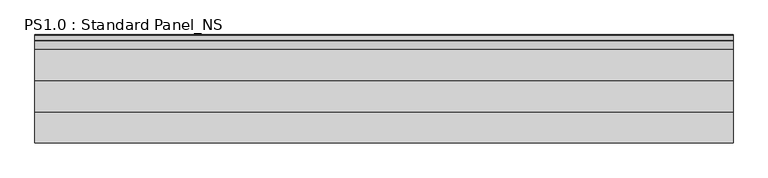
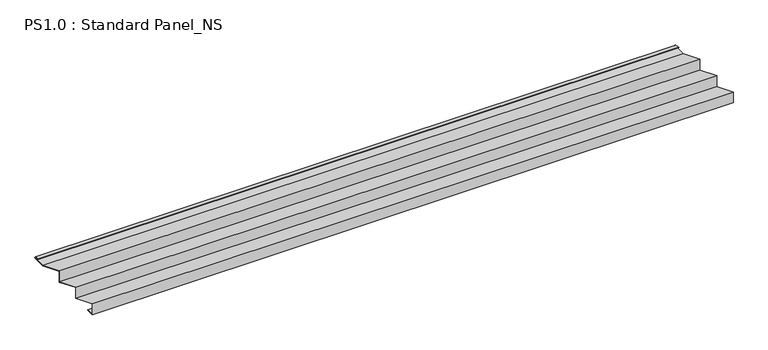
"""IFC4 building model written with IfcOpenShell, lengths in millimetres: proxy geometry, PS1.0 : Standard Panel_NS."""

import ifcopenshell
import ifcopenshell.guid

model = None  # the IFC model being written
_history = None  # IfcOwnerHistory: only IFC2X3 demands one
_inside = {}  # id of a spatial element -> (the spatial element, [elements in it])
_under = {}  # id of a project, library or spatial element -> (it, [spatial elements below it])
_declared = {}  # id of a project -> (the project, [libraries it declares])
_typed = {}  # id of a type object -> (the type object, [elements of that type])
_made_of = {}  # id of a material, layer set ... -> (it, [elements and type objects made of it])


def new_model(schema):
    """Start an empty IFC model of exactly this schema.

    Asked for "IFC4X3", IfcOpenShell would pick the latest addendum, in which some entities
    have other attributes; the version numbers below select the first issue.
    IFC2X3 requires an IfcOwnerHistory on every rooted entity: one is made here for all.
    """
    global model, _history
    if schema == "IFC4X3":
        model = ifcopenshell.file(schema_version=(4, 3, 0, 0))
    else:
        model = ifcopenshell.file(schema=schema)
    _inside.clear()
    _under.clear()
    _declared.clear()
    _typed.clear()
    _made_of.clear()
    _history = None
    if model.schema == "IFC2X3":
        org = make("IfcOrganization", Name="unknown")
        user = make(
            "IfcPersonAndOrganization",
            ThePerson=make("IfcPerson", FamilyName="unknown"),
            TheOrganization=org,
        )
        app = make(
            "IfcApplication",
            ApplicationDeveloper=org,
            Version="unknown",
            ApplicationFullName="unknown",
            ApplicationIdentifier="unknown",
        )
        _history = make(
            "IfcOwnerHistory",
            OwningUser=user,
            OwningApplication=app,
            ChangeAction="ADDED",
            CreationDate=0,
        )
    return model


def make(cls, **values):
    """One entity of the class cls with the attributes given. An attribute that is None is left unset."""
    return model.create_entity(
        cls, **{name: value for name, value in values.items() if value is not None}
    )


def rooted(cls, **values):
    """An entity with a GlobalId (a new one), such as an element, a storey or a relation."""
    return make(cls, GlobalId=ifcopenshell.guid.new(), OwnerHistory=_history, **values)


def si_unit(unit_type, name, prefix=None):
    """IfcSIUnit, for example si_unit("LENGTHUNIT", "METRE", prefix="MILLI")."""
    return make("IfcSIUnit", UnitType=unit_type, Prefix=prefix, Name=name)


def assignment(units):
    """IfcUnitAssignment: the units of a project."""
    return None if units is None else make("IfcUnitAssignment", Units=units)


def point(xyz):
    """IfcCartesianPoint."""
    return None if xyz is None else make("IfcCartesianPoint", Coordinates=xyz)


def direction(xyz):
    """IfcDirection."""
    return None if xyz is None else make("IfcDirection", DirectionRatios=xyz)


def frame(location, z_axis=None, x_axis=None):
    """IfcAxis2Placement3D, a coordinate frame: its origin and axes. An axis left out is left unset."""
    return make(
        "IfcAxis2Placement3D",
        Location=point(location),
        Axis=direction(z_axis),
        RefDirection=direction(x_axis),
    )


def frame_2d(location, x_axis=None):
    """IfcAxis2Placement2D, a coordinate frame in the plane: its origin and x axis."""
    return make(
        "IfcAxis2Placement2D", Location=point(location), RefDirection=direction(x_axis)
    )


def origin():
    """The frame at (0, 0, 0) with its axes left unset."""
    return frame((0.0, 0.0, 0.0))


def place(relative_to, where):
    """IfcLocalPlacement: puts the frame where relative to a parent placement (None: the world)."""
    return make(
        "IfcLocalPlacement", PlacementRelTo=relative_to, RelativePlacement=where
    )


def context(
    kind, dimensions, precision=None, world=None, true_north=None, identifier=None
):
    """IfcGeometricRepresentationContext, for example the 3D "Model" context."""
    return make(
        "IfcGeometricRepresentationContext",
        ContextIdentifier=identifier,
        ContextType=kind,
        CoordinateSpaceDimension=dimensions,
        Precision=precision,
        WorldCoordinateSystem=world,
        TrueNorth=true_north,
    )


def project(units=None, contexts=None):
    """IfcProject with its units and contexts."""
    return rooted(
        "IfcProject",
        Name="project",
        RepresentationContexts=contexts,
        UnitsInContext=assignment(units),
    )


def spatial(cls, under=None, at=None, **own):
    """A site, building, storey or space (cls), placed at a placement, below another one or the project."""
    s = rooted(cls, ObjectPlacement=at, **own)
    if under is not None:
        _under.setdefault(under.id(), (under, []))[1].append(s)
    return s


def polyline(points):
    """IfcPolyline through the points."""
    return make("IfcPolyline", Points=[point(p) for p in points])


def circle_curve(where, radius):
    """IfcCircle in the frame where."""
    return make("IfcCircle", Position=where, Radius=radius)


def trimmed(basis, trim1, trim2, sense, master):
    """IfcTrimmedCurve: the piece of a basis curve between two trims."""
    return make(
        "IfcTrimmedCurve",
        BasisCurve=basis,
        Trim1=trim1,
        Trim2=trim2,
        SenseAgreement=sense,
        MasterRepresentation=master,
    )


def segment(curve, same_sense, transition):
    """IfcCompositeCurveSegment."""
    return make(
        "IfcCompositeCurveSegment",
        Transition=transition,
        SameSense=same_sense,
        ParentCurve=curve,
    )


def composite_curve(segments, self_intersect=None):
    """IfcCompositeCurve: segments joined end to end."""
    return make("IfcCompositeCurve", Segments=segments, SelfIntersect=self_intersect)


def outline(outer, holes=None, kind="AREA"):
    """IfcArbitraryClosedProfileDef: a profile drawn as a closed curve; with holes, ...WithVoids."""
    if holes is None:
        return make("IfcArbitraryClosedProfileDef", ProfileType=kind, OuterCurve=outer)
    return make(
        "IfcArbitraryProfileDefWithVoids",
        ProfileType=kind,
        OuterCurve=outer,
        InnerCurves=holes,
    )


def extrude(swept, where, along, depth):
    """IfcExtrudedAreaSolid: the profile swept, set in the frame where, extruded along a direction by depth."""
    return make(
        "IfcExtrudedAreaSolid",
        SweptArea=swept,
        Position=where,
        ExtrudedDirection=direction(along),
        Depth=depth,
    )


def shape(context_of_items, identifier, shape_type, items):
    """IfcShapeRepresentation: the items that make up one representation, for example the "Body"."""
    return make(
        "IfcShapeRepresentation",
        ContextOfItems=context_of_items,
        RepresentationIdentifier=identifier,
        RepresentationType=shape_type,
        Items=items,
    )


def source(mapping_origin, context_of_items, identifier, shape_type, items):
    """IfcRepresentationMap: a shape defined once, which mapped items show again and again."""
    return make(
        "IfcRepresentationMap",
        MappingOrigin=mapping_origin,
        MappedRepresentation=shape(context_of_items, identifier, shape_type, items),
    )


def transform(
    local_origin,
    x_axis=None,
    y_axis=None,
    z_axis=None,
    scale=None,
    scale2=None,
    scale3=None,
    uniform=True,
):
    """IfcCartesianTransformationOperator3D, or its non-uniform kind. x_axis, y_axis, z_axis: its Axis1, 2, 3."""
    if uniform:
        return make(
            "IfcCartesianTransformationOperator3D",
            Axis1=direction(x_axis),
            Axis2=direction(y_axis),
            LocalOrigin=point(local_origin),
            Scale=scale,
            Axis3=direction(z_axis),
        )
    return make(
        "IfcCartesianTransformationOperator3DnonUniform",
        Axis1=direction(x_axis),
        Axis2=direction(y_axis),
        LocalOrigin=point(local_origin),
        Scale=scale,
        Axis3=direction(z_axis),
        Scale2=scale2,
        Scale3=scale3,
    )


def mapped(mapping_source, mapping_target):
    """IfcMappedItem: shows the shape of a source again, moved by a transform."""
    return make(
        "IfcMappedItem", MappingSource=mapping_source, MappingTarget=mapping_target
    )


def made_of(thing, what):
    """Note that an element or type object is made of a material, layer set ...; save() writes the relation."""
    if what is not None:
        _made_of.setdefault(what.id(), (what, []))[1].append(thing)
    return thing


def element(
    cls,
    number,
    at=None,
    inside=None,
    cuts=None,
    type_object=None,
    material=None,
    context=None,
    identifier="Body",
    shape_type=None,
    held_by="IfcProductDefinitionShape",
    body=None,
    shapes=None,
    **own,
):
    """One element of the class cls, such as IfcWall. Its Tag is "e" and its number.

    at: its placement. inside: the storey or other place that contains it. cuts: it is an
    opening in that element (IfcRelVoidsElement). A single representation is given by context,
    identifier, shape_type and body (its items); several are given by shapes. held_by: the class
    of the entity that holds the representations. save() writes the other relations.
    """
    e = rooted(cls, Tag="e%d" % number, ObjectPlacement=at, **own)
    if body is not None:
        shapes = [shape(context, identifier, shape_type, body)]
    if shapes is not None:
        e.Representation = make(held_by, Representations=shapes)
    if inside is not None:
        _inside.setdefault(inside.id(), (inside, []))[1].append(e)
    if cuts is not None:
        rooted(
            "IfcRelVoidsElement", RelatingBuildingElement=cuts, RelatedOpeningElement=e
        )
    if type_object is not None:
        _typed.setdefault(type_object.id(), (type_object, []))[1].append(e)
    return made_of(e, material)


def aggregate(whole, parts):
    """IfcRelAggregates: a whole, such as a stair, and the parts it consists of."""
    return rooted("IfcRelAggregates", RelatingObject=whole, RelatedObjects=parts)


def save(model, path):
    """Write the relations noted so far, then the file.

    IfcRelAggregates (storeys below a building ...), IfcRelContainedInSpatialStructure (elements
    in a storey), IfcRelDefinesByType, IfcRelAssociatesMaterial and IfcRelDeclares: one each for
    every whole, place, type object, material and project.
    """
    for whole, parts in _under.values():
        aggregate(whole, parts)
    for where, things in _inside.values():
        rooted(
            "IfcRelContainedInSpatialStructure",
            RelatedElements=things,
            RelatingStructure=where,
        )
    for kind, things in _typed.values():
        rooted("IfcRelDefinesByType", RelatedObjects=things, RelatingType=kind)
    for what, things in _made_of.values():
        rooted("IfcRelAssociatesMaterial", RelatedObjects=things, RelatingMaterial=what)
    for by, libraries in _declared.values():
        rooted("IfcRelDeclares", RelatingContext=by, RelatedDefinitions=libraries)
    model.write(path)


def ps1_0_standard_panel_ns_bf2b593f(model_context):
    return source(origin(), model_context, "Body", "SweptSolid", [
        extrude(outline(composite_curve([segment(polyline([(0.0, 0.0), (0.0, 38.0), (94.0, 0.0), (94.0, 38.0), (188.0, 0.0), (188.0, 38.0), (281.9966446, 0.0), (324.8317866, 0.0)]), True, "CONTINUOUS"), segment(trimmed(circle_curve(frame_2d((324.3094696, 0.9153551)), 1.0538928), [point((324.8317866, 0.0))], [point((324.8448691, 1.8231201))], True, "CARTESIAN"), True, "CONTINUOUS"), segment(polyline([(324.8448691, 1.8231201), (308.5989911, 4.94103), (308.7874714, 5.923107), (325.1748462, 2.778041)]), True, "CONTINUOUS"), segment(trimmed(circle_curve(frame_2d((324.3094696, 0.9153551)), 2.0538928), [point((325.1748462, 2.778041))], [point((325.0510156, -1.0))], False, "CARTESIAN"), True, "CONTINUOUS"), segment(polyline([(325.0510156, -1.0), (281.8021557, -1.0), (189.0, 36.5171043), (189.0, -1.4828759), (95.0, 36.5171241), (95.0, -1.4828759), (1.0, 36.5171241), (1.0, 1.0), (25.0, 1.0), (25.0, 0.0), (0.0, 0.0)]), True, "CONTINUOUS")], self_intersect=False)), frame((0.0, 0.0, 0.0), z_axis=(1.0, 0.0, 0.0), x_axis=(0.0, 1.0, 0.0)), (0.0, 0.0, 1.0), 2100.0),
    ])


if __name__ == "__main__":
    model = new_model("IFC4")
    model_context = context("Model", 3, world=origin())
    ifc_project = project(units=[si_unit("LENGTHUNIT", "METRE", prefix="MILLI")], contexts=[model_context])
    site = spatial("IfcSite", under=ifc_project)
    building = spatial("IfcBuilding", under=site)
    placement = place(None, origin())
    ps1_0_standard_panel_ns_shape = ps1_0_standard_panel_ns_bf2b593f(model_context)
    element("IfcBuildingElementProxy", 1, Name="PS1.0 : Standard Panel_NS", ObjectType="PS1.0 : Standard Panel_NS", at=placement, inside=building, context=model_context, shape_type="MappedRepresentation", body=[
        mapped(ps1_0_standard_panel_ns_shape, transform((0.0, 0.0, 0.0), x_axis=(1.0, 0.0, 0.0), y_axis=(0.0, 1.0, 0.0), z_axis=(0.0, 0.0, 1.0))),
    ])
    save(model, "model.ifc")
